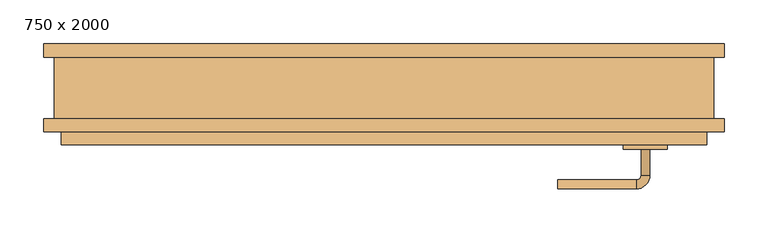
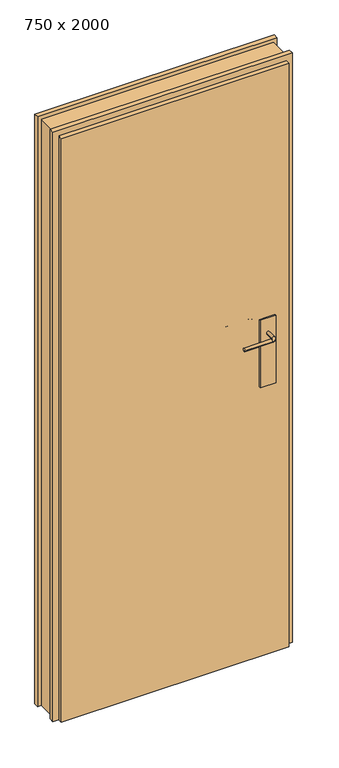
"""IFC4 building model written with IfcOpenShell, lengths in millimetres: door geometry, Door_Zeppelin-Rental-GmbH_Single-Leaf-Door : 750 x 2000."""

from ifc_helpers import new_model, si_unit, point, frame, origin, place, context, project, spatial, polyline, circle_curve, ellipse_curve, trimmed, outline, extrude, faceted_brep, source, transform, mapped, element, save
from ifc_brep_helpers import plane_surface, cylinder_surface, revolved_surface, advanced_brep


def door_750_x_2000_b44a9dc9(model_context):
    return source(origin(), model_context, "Body", "SolidModel", [
        extrude(outline(polyline([(322.5, -19.5000092), (322.5, -24.5000092), (272.5, -24.5000092), (272.5, -19.5000092), (322.5, -19.5000092)])), frame((0.0, 0.0, 920.0), z_axis=(0.0, 0.0, 1.0), x_axis=(1.0, 0.0, 0.0)), (0.0, 0.0, 1.0), 230.0),
        advanced_brep(
        [(292.5, -36.5000092, 1100.0), (302.5, -36.5000092, 1100.0), (292.5, 10.4999908, 1100.0), (302.5, 10.4999908, 1100.0), (287.5, 15.4999908, 1100.0), (287.5, 25.4999908, 1100.0), (197.5007022, 15.4999908, 1100.0), (197.5007022, 25.4999908, 1100.0)],
        [
            (0, 1, circle_curve(frame((297.5, -36.5000092, 1100.0), z_axis=(0.0, -1.0, 0.0), x_axis=(1.0, 0.0, 0.0)), 5.0)),
            (1, 0, circle_curve(frame((297.5, -36.5000092, 1100.0), z_axis=(0.0, -1.0, 0.0), x_axis=(1.0, 0.0, 0.0)), 5.0)),
            (0, 2),
            (2, 3, circle_curve(frame((297.5, 10.4999908, 1100.0), z_axis=(0.0, -1.0, 0.0), x_axis=(1.0, 0.0, 0.0)), 5.0)),
            (3, 1),
            (3, 2, circle_curve(frame((297.5, 10.4999908, 1100.0), z_axis=(0.0, -1.0, 0.0), x_axis=(1.0, 0.0, 0.0)), 5.0)),
            (4, 5, circle_curve(frame((287.5, 20.4999908, 1100.0), z_axis=(1.0, 0.0, 0.0), x_axis=(0.0, 1.0, 0.0)), 5.0)),
            (5, 3, circle_curve(frame((287.5, 10.4999908, 1100.0), z_axis=(0.0, 0.0, -1.0), x_axis=(1.0, 0.0, 0.0)), 15.0)),
            (2, 4, circle_curve(frame((287.5, 10.4999908, 1100.0), z_axis=(0.0, 0.0, 1.0), x_axis=(1.0, 0.0, 0.0)), 5.0)),
            (5, 4, circle_curve(frame((287.5, 20.4999908, 1100.0), z_axis=(1.0, 0.0, 0.0), x_axis=(0.0, 1.0, 0.0)), 5.0)),
            (6, 7, circle_curve(frame((197.5007022, 20.4999908, 1100.0), z_axis=(-1.0, 0.0, 0.0), x_axis=(0.0, 1.0, 0.0)), 5.0)),
            (7, 6, circle_curve(frame((197.5007022, 20.4999908, 1100.0), z_axis=(-1.0, 0.0, 0.0), x_axis=(0.0, 1.0, 0.0)), 5.0)),
            (4, 6),
            (7, 5),
        ],
        [
            plane_surface(frame((297.5, -36.5000092, 1100.0), z_axis=(0.0, -1.0, 0.0), x_axis=(0.0, 0.0, 1.0))),
            cylinder_surface(frame((297.5, -36.5000092, 1100.0), z_axis=(0.0, -1.0, 0.0), x_axis=(1.0, 0.0, 0.0)), 5.0),
            revolved_surface(trimmed(ellipse_curve(frame((297.5, 10.4999908, 1100.0), z_axis=(0.0, 1.0, 0.0), x_axis=(1.0, 0.0, 0.0)), 5.0, 5.0), [point((302.5, 10.4999908, 1100.0))], [point((292.5, 10.4999908, 1100.0))], True, "CARTESIAN"), (287.5, 10.4999908, 1100.0), (0.0, 0.0, -1.0)),
            revolved_surface(trimmed(ellipse_curve(frame((297.5, 10.4999908, 1100.0), z_axis=(0.0, 1.0, 0.0), x_axis=(1.0, 0.0, 0.0)), 5.0, 5.0), [point((292.5, 10.4999908, 1100.0))], [point((302.5, 10.4999908, 1100.0))], True, "CARTESIAN"), (287.5, 10.4999908, 1100.0), (0.0, 0.0, -1.0)),
            plane_surface(frame((197.5007022, 20.4999908, 1100.0), z_axis=(-1.0, 0.0, 0.0), x_axis=(0.0, 0.0, 1.0))),
            cylinder_surface(frame((287.5, 20.4999908, 1100.0), z_axis=(1.0, 0.0, 0.0), x_axis=(0.0, 1.0, 0.0)), 5.0),
        ],
        [
            (0, [[1, 2]]),
            (1, [[3, 4, 5, -1]]),
            (1, [[-5, 6, -3, -2]]),
            (2, [[7, 8, -4, 9]]),
            (3, [[10, -9, -6, -8]]),
            (4, [[11, 12]]),
            (5, [[13, -12, 14, -7]]),
            (5, [[-14, -11, -13, -10]]),
        ],
    ),
        extrude(outline(polyline([(272.5, -69.5000092), (272.5, -64.5000092), (322.5, -64.5000092), (322.5, -69.5000092), (272.5, -69.5000092)])), frame((0.0, 0.0, 920.0), z_axis=(0.0, 0.0, 1.0), x_axis=(1.0, 0.0, 0.0)), (0.0, 0.0, 1.0), 230.0),
        advanced_brep(
        [(302.5, -69.5000092, 1100.0), (292.5, -69.5000092, 1100.0), (292.5, -99.5000092, 1100.0), (302.5, -99.5000092, 1100.0), (287.5, -104.5000092, 1100.0), (287.5, -114.5000092, 1100.0), (197.5007022, -114.5000092, 1100.0), (197.5007022, -104.5000092, 1100.0)],
        [
            (0, 1, circle_curve(frame((297.5, -69.5000092, 1100.0), z_axis=(0.0, 1.0, 0.0), x_axis=(-1.0, 0.0, 0.0)), 5.0)),
            (1, 0, circle_curve(frame((297.5, -69.5000092, 1100.0), z_axis=(0.0, 1.0, 0.0), x_axis=(-1.0, 0.0, 0.0)), 5.0)),
            (1, 2),
            (2, 3, circle_curve(frame((297.5, -99.5000092, 1100.0), z_axis=(0.0, 1.0, 0.0), x_axis=(-1.0, 0.0, 0.0)), 5.0)),
            (3, 0),
            (3, 2, circle_curve(frame((297.5, -99.5000092, 1100.0), z_axis=(0.0, 1.0, 0.0), x_axis=(-1.0, 0.0, 0.0)), 5.0)),
            (4, 5, circle_curve(frame((287.5, -109.5000092, 1100.0), z_axis=(1.0, 0.0, 0.0), x_axis=(0.0, 1.0, 0.0)), 5.0)),
            (5, 3, circle_curve(frame((287.5, -99.5000092, 1100.0), z_axis=(0.0, 0.0, 1.0), x_axis=(1.0, 0.0, 0.0)), 15.0)),
            (2, 4, circle_curve(frame((287.5, -99.5000092, 1100.0), z_axis=(0.0, 0.0, -1.0), x_axis=(1.0, 0.0, 0.0)), 5.0)),
            (5, 4, circle_curve(frame((287.5, -109.5000092, 1100.0), z_axis=(1.0, 0.0, 0.0), x_axis=(0.0, 1.0, 0.0)), 5.0)),
            (6, 7, circle_curve(frame((197.5007022, -109.5000092, 1100.0), z_axis=(-1.0, 0.0, 0.0), x_axis=(0.0, 1.0, 0.0)), 5.0)),
            (7, 6, circle_curve(frame((197.5007022, -109.5000092, 1100.0), z_axis=(-1.0, 0.0, 0.0), x_axis=(0.0, 1.0, 0.0)), 5.0)),
            (4, 7),
            (6, 5),
        ],
        [
            plane_surface(frame((297.5, -69.5000092, 1100.0), z_axis=(0.0, 1.0, 0.0), x_axis=(0.0, 0.0, 1.0))),
            cylinder_surface(frame((297.5, -69.5000092, 1100.0), z_axis=(0.0, 1.0, 0.0), x_axis=(-1.0, 0.0, 0.0)), 5.0),
            revolved_surface(trimmed(ellipse_curve(frame((297.5, -99.5000092, 1100.0), z_axis=(0.0, -1.0, 0.0), x_axis=(-1.0, 0.0, 0.0)), 5.0, 5.0), [point((302.5, -99.5000092, 1100.0))], [point((292.5, -99.5000092, 1100.0))], True, "CARTESIAN"), (287.5, -99.5000092, 1100.0), (0.0, 0.0, 1.0)),
            revolved_surface(trimmed(ellipse_curve(frame((297.5, -99.5000092, 1100.0), z_axis=(0.0, -1.0, 0.0), x_axis=(-1.0, 0.0, 0.0)), 5.0, 5.0), [point((292.5, -99.5000092, 1100.0))], [point((302.5, -99.5000092, 1100.0))], True, "CARTESIAN"), (287.5, -99.5000092, 1100.0), (0.0, 0.0, 1.0)),
            plane_surface(frame((197.5007022, -109.5000092, 1100.0), z_axis=(-1.0, 0.0, 0.0), x_axis=(0.0, 0.0, 1.0))),
            cylinder_surface(frame((287.5, -109.5000092, 1100.0), z_axis=(1.0, 0.0, 0.0), x_axis=(0.0, 1.0, 0.0)), 5.0),
        ],
        [
            (0, [[1, 2]]),
            (1, [[3, 4, 5, -2]]),
            (1, [[-5, 6, -3, -1]]),
            (2, [[7, 8, -4, 9]]),
            (3, [[10, -9, -6, -8]]),
            (4, [[11, 12]]),
            (5, [[13, -11, 14, -7]]),
            (5, [[-14, -12, -13, -10]]),
        ],
    ),
        faceted_brep([(-354.5, -24.5000092, 0.0), (354.5, -24.5000092, 0.0), (354.5, -50.0000092, 0.0), (367.5, -50.0000092, 0.0), (367.5, -64.5000092, 0.0), (-367.5, -64.5000092, 0.0), (-367.5, -50.0000092, 0.0), (-354.5, -50.0000092, 0.0), (-354.5, -24.5000092, 1979.0), (354.5, -24.5000092, 1979.0), (354.5, -50.0000092, 1979.0), (-354.5, -50.0000092, 1979.0), (-367.5, -50.0000092, 1992.0), (367.5, -50.0000092, 1992.0), (367.5, -64.5000092, 1992.0), (-367.5, -64.5000092, 1992.0)], [[[0, 1, 2, 3, 4, 5, 6, 7]], [[0, 8, 9, 1]], [[1, 9, 10, 2]], [[2, 10, 11, 7, 6, 12, 13, 3]], [[13, 14, 4, 3]], [[4, 14, 15, 5]], [[5, 15, 12, 6]], [[7, 11, 8, 0]], [[12, 15, 14, 13]], [[10, 9, 8, 11]]]),
        faceted_brep([(357.0, -50.0000092, 0.0), (357.0, -22.0000092, 0.0), (342.0, -22.0000092, 0.0), (342.0, 19.9999908, 0.0), (357.0, 19.9999908, 0.0), (357.0, 50.0, 0.0), (387.0, 50.0, 0.0), (387.0, 35.0, 0.0), (375.0, 35.0, 0.0), (375.0, -35.0, 0.0), (387.0, -35.0, 0.0), (387.0, -50.0000092, 0.0), (-357.0, -50.0000092, 0.0), (-387.0, -50.0000092, 0.0), (-387.0, -35.0, 0.0), (-375.0, -35.0, 0.0), (-375.0, 35.0, 0.0), (-387.0, 35.0, 0.0), (-387.0, 50.0, 0.0), (-357.0, 50.0, 0.0), (-357.0, 19.9999908, 0.0), (-342.0, 19.9999908, 0.0), (-342.0, -22.0000092, 0.0), (-357.0, -22.0000092, 0.0), (387.0, -50.0000092, 2012.0), (-387.0, -50.0000092, 2012.0), (-357.0, -50.0000092, 1982.0), (357.0, -50.0000092, 1982.0), (387.0, -35.0, 2012.0), (375.0, -35.0, 2000.0), (-375.0, -35.0, 2000.0), (-387.0, -35.0, 2012.0), (375.0, 35.0, 2000.0), (387.0, 35.0, 2012.0), (-387.0, 35.0, 2012.0), (-375.0, 35.0, 2000.0), (387.0, 50.0, 2012.0), (357.0, 50.0, 1982.0), (-357.0, 50.0, 1982.0), (-387.0, 50.0, 2012.0), (357.0, -22.0000092, 1982.0), (-357.0, -22.0000092, 1982.0), (357.0, 19.9999908, 1982.0), (342.0, 19.9999908, 1967.0), (-342.0, 19.9999908, 1967.0), (-357.0, 19.9999908, 1982.0), (342.0, -22.0000092, 1967.0), (-342.0, -22.0000092, 1967.0)], [[[0, 1, 2, 3, 4, 5, 6, 7, 8, 9, 10, 11]], [[12, 13, 14, 15, 16, 17, 18, 19, 20, 21, 22, 23]], [[11, 24, 25, 13, 12, 26, 27, 0]], [[10, 28, 24, 11]], [[9, 29, 30, 15, 14, 31, 28, 10]], [[8, 32, 29, 9]], [[7, 33, 34, 17, 16, 35, 32, 8]], [[6, 36, 33, 7]], [[5, 37, 38, 19, 18, 39, 36, 6]], [[0, 27, 40, 1]], [[28, 31, 25, 24]], [[32, 35, 30, 29]], [[36, 39, 34, 33]], [[27, 26, 41, 40]], [[31, 14, 13, 25]], [[35, 16, 15, 30]], [[39, 18, 17, 34]], [[26, 12, 23, 41]], [[4, 42, 37, 5]], [[3, 43, 44, 21, 20, 45, 42, 4]], [[2, 46, 43, 3]], [[1, 40, 41, 23, 22, 47, 46, 2]], [[42, 45, 38, 37]], [[46, 47, 44, 43]], [[45, 20, 19, 38]], [[47, 22, 21, 44]]]),
    ])


if __name__ == "__main__":
    model = new_model("IFC4")
    model_context = context("Model", 3, world=origin())
    ifc_project = project(units=[si_unit("LENGTHUNIT", "METRE", prefix="MILLI")], contexts=[model_context])
    site = spatial("IfcSite", under=ifc_project)
    building = spatial("IfcBuilding", under=site)
    placement = place(None, origin())
    door_750_x_2000_shape = door_750_x_2000_b44a9dc9(model_context)
    element("IfcDoor", 1, ObjectType="Door_Zeppelin-Rental-GmbH_Single-Leaf-Door : 750 x 2000", at=placement, inside=building, context=model_context, shape_type="MappedRepresentation", body=[
        mapped(door_750_x_2000_shape, transform((0.0, 0.0, 0.0), x_axis=(1.0, 0.0, 0.0), y_axis=(0.0, 1.0, 0.0), z_axis=(0.0, 0.0, 1.0))),
    ])
    save(model, "model.ifc")
